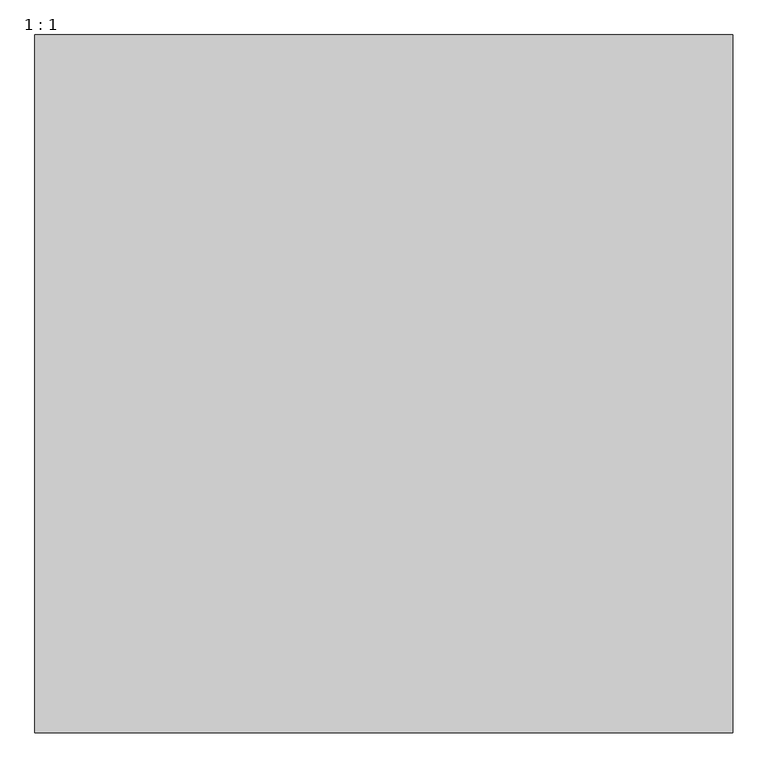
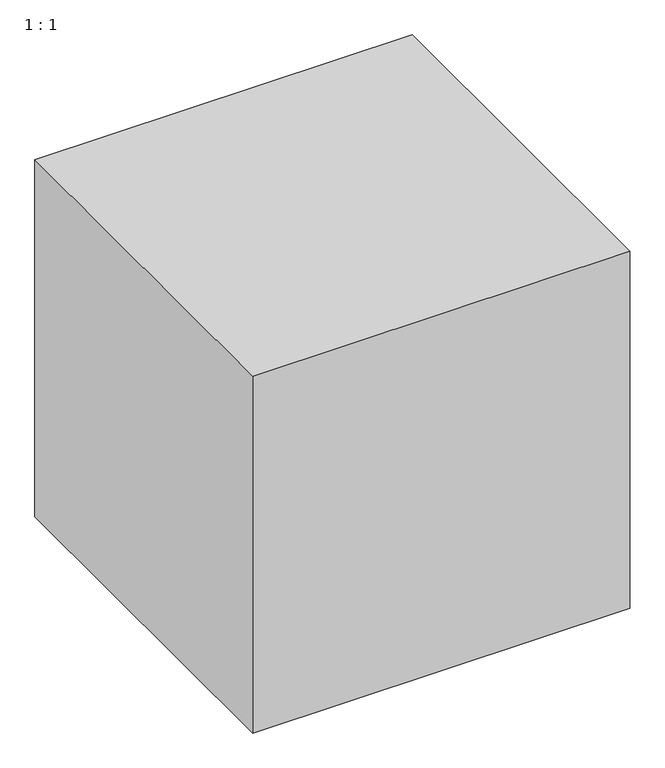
"""IFC4 building model written with IfcOpenShell, lengths in millimetres: proxy geometry, 1 : 1."""

import ifcopenshell
import ifcopenshell.guid

model = None  # the IFC model being written
_history = None  # IfcOwnerHistory: only IFC2X3 demands one
_inside = {}  # id of a spatial element -> (the spatial element, [elements in it])
_under = {}  # id of a project, library or spatial element -> (it, [spatial elements below it])
_declared = {}  # id of a project -> (the project, [libraries it declares])
_typed = {}  # id of a type object -> (the type object, [elements of that type])
_made_of = {}  # id of a material, layer set ... -> (it, [elements and type objects made of it])


def new_model(schema):
    """Start an empty IFC model of exactly this schema.

    Asked for "IFC4X3", IfcOpenShell would pick the latest addendum, in which some entities
    have other attributes; the version numbers below select the first issue.
    IFC2X3 requires an IfcOwnerHistory on every rooted entity: one is made here for all.
    """
    global model, _history
    if schema == "IFC4X3":
        model = ifcopenshell.file(schema_version=(4, 3, 0, 0))
    else:
        model = ifcopenshell.file(schema=schema)
    _inside.clear()
    _under.clear()
    _declared.clear()
    _typed.clear()
    _made_of.clear()
    _history = None
    if model.schema == "IFC2X3":
        org = make("IfcOrganization", Name="unknown")
        user = make(
            "IfcPersonAndOrganization",
            ThePerson=make("IfcPerson", FamilyName="unknown"),
            TheOrganization=org,
        )
        app = make(
            "IfcApplication",
            ApplicationDeveloper=org,
            Version="unknown",
            ApplicationFullName="unknown",
            ApplicationIdentifier="unknown",
        )
        _history = make(
            "IfcOwnerHistory",
            OwningUser=user,
            OwningApplication=app,
            ChangeAction="ADDED",
            CreationDate=0,
        )
    return model


def make(cls, **values):
    """One entity of the class cls with the attributes given. An attribute that is None is left unset."""
    return model.create_entity(
        cls, **{name: value for name, value in values.items() if value is not None}
    )


def rooted(cls, **values):
    """An entity with a GlobalId (a new one), such as an element, a storey or a relation."""
    return make(cls, GlobalId=ifcopenshell.guid.new(), OwnerHistory=_history, **values)


def si_unit(unit_type, name, prefix=None):
    """IfcSIUnit, for example si_unit("LENGTHUNIT", "METRE", prefix="MILLI")."""
    return make("IfcSIUnit", UnitType=unit_type, Prefix=prefix, Name=name)


def assignment(units):
    """IfcUnitAssignment: the units of a project."""
    return None if units is None else make("IfcUnitAssignment", Units=units)


def point(xyz):
    """IfcCartesianPoint."""
    return None if xyz is None else make("IfcCartesianPoint", Coordinates=xyz)


def direction(xyz):
    """IfcDirection."""
    return None if xyz is None else make("IfcDirection", DirectionRatios=xyz)


def frame(location, z_axis=None, x_axis=None):
    """IfcAxis2Placement3D, a coordinate frame: its origin and axes. An axis left out is left unset."""
    return make(
        "IfcAxis2Placement3D",
        Location=point(location),
        Axis=direction(z_axis),
        RefDirection=direction(x_axis),
    )


def origin():
    """The frame at (0, 0, 0) with its axes left unset."""
    return frame((0.0, 0.0, 0.0))


def origin_with_axes():
    """The frame at (0, 0, 0) with the z axis (0, 0, 1) and the x axis (1, 0, 0) written out."""
    return frame((0.0, 0.0, 0.0), z_axis=(0.0, 0.0, 1.0), x_axis=(1.0, 0.0, 0.0))


def place(relative_to, where):
    """IfcLocalPlacement: puts the frame where relative to a parent placement (None: the world)."""
    return make(
        "IfcLocalPlacement", PlacementRelTo=relative_to, RelativePlacement=where
    )


def context(
    kind, dimensions, precision=None, world=None, true_north=None, identifier=None
):
    """IfcGeometricRepresentationContext, for example the 3D "Model" context."""
    return make(
        "IfcGeometricRepresentationContext",
        ContextIdentifier=identifier,
        ContextType=kind,
        CoordinateSpaceDimension=dimensions,
        Precision=precision,
        WorldCoordinateSystem=world,
        TrueNorth=true_north,
    )


def project(units=None, contexts=None):
    """IfcProject with its units and contexts."""
    return rooted(
        "IfcProject",
        Name="project",
        RepresentationContexts=contexts,
        UnitsInContext=assignment(units),
    )


def spatial(cls, under=None, at=None, **own):
    """A site, building, storey or space (cls), placed at a placement, below another one or the project."""
    s = rooted(cls, ObjectPlacement=at, **own)
    if under is not None:
        _under.setdefault(under.id(), (under, []))[1].append(s)
    return s


def polyline(points):
    """IfcPolyline through the points."""
    return make("IfcPolyline", Points=[point(p) for p in points])


def outline(outer, holes=None, kind="AREA"):
    """IfcArbitraryClosedProfileDef: a profile drawn as a closed curve; with holes, ...WithVoids."""
    if holes is None:
        return make("IfcArbitraryClosedProfileDef", ProfileType=kind, OuterCurve=outer)
    return make(
        "IfcArbitraryProfileDefWithVoids",
        ProfileType=kind,
        OuterCurve=outer,
        InnerCurves=holes,
    )


def extrude(swept, where, along, depth):
    """IfcExtrudedAreaSolid: the profile swept, set in the frame where, extruded along a direction by depth."""
    return make(
        "IfcExtrudedAreaSolid",
        SweptArea=swept,
        Position=where,
        ExtrudedDirection=direction(along),
        Depth=depth,
    )


def shape(context_of_items, identifier, shape_type, items):
    """IfcShapeRepresentation: the items that make up one representation, for example the "Body"."""
    return make(
        "IfcShapeRepresentation",
        ContextOfItems=context_of_items,
        RepresentationIdentifier=identifier,
        RepresentationType=shape_type,
        Items=items,
    )


def source(mapping_origin, context_of_items, identifier, shape_type, items):
    """IfcRepresentationMap: a shape defined once, which mapped items show again and again."""
    return make(
        "IfcRepresentationMap",
        MappingOrigin=mapping_origin,
        MappedRepresentation=shape(context_of_items, identifier, shape_type, items),
    )


def transform(
    local_origin,
    x_axis=None,
    y_axis=None,
    z_axis=None,
    scale=None,
    scale2=None,
    scale3=None,
    uniform=True,
):
    """IfcCartesianTransformationOperator3D, or its non-uniform kind. x_axis, y_axis, z_axis: its Axis1, 2, 3."""
    if uniform:
        return make(
            "IfcCartesianTransformationOperator3D",
            Axis1=direction(x_axis),
            Axis2=direction(y_axis),
            LocalOrigin=point(local_origin),
            Scale=scale,
            Axis3=direction(z_axis),
        )
    return make(
        "IfcCartesianTransformationOperator3DnonUniform",
        Axis1=direction(x_axis),
        Axis2=direction(y_axis),
        LocalOrigin=point(local_origin),
        Scale=scale,
        Axis3=direction(z_axis),
        Scale2=scale2,
        Scale3=scale3,
    )


def mapped(mapping_source, mapping_target):
    """IfcMappedItem: shows the shape of a source again, moved by a transform."""
    return make(
        "IfcMappedItem", MappingSource=mapping_source, MappingTarget=mapping_target
    )


def made_of(thing, what):
    """Note that an element or type object is made of a material, layer set ...; save() writes the relation."""
    if what is not None:
        _made_of.setdefault(what.id(), (what, []))[1].append(thing)
    return thing


def element(
    cls,
    number,
    at=None,
    inside=None,
    cuts=None,
    type_object=None,
    material=None,
    context=None,
    identifier="Body",
    shape_type=None,
    held_by="IfcProductDefinitionShape",
    body=None,
    shapes=None,
    **own,
):
    """One element of the class cls, such as IfcWall. Its Tag is "e" and its number.

    at: its placement. inside: the storey or other place that contains it. cuts: it is an
    opening in that element (IfcRelVoidsElement). A single representation is given by context,
    identifier, shape_type and body (its items); several are given by shapes. held_by: the class
    of the entity that holds the representations. save() writes the other relations.
    """
    e = rooted(cls, Tag="e%d" % number, ObjectPlacement=at, **own)
    if body is not None:
        shapes = [shape(context, identifier, shape_type, body)]
    if shapes is not None:
        e.Representation = make(held_by, Representations=shapes)
    if inside is not None:
        _inside.setdefault(inside.id(), (inside, []))[1].append(e)
    if cuts is not None:
        rooted(
            "IfcRelVoidsElement", RelatingBuildingElement=cuts, RelatedOpeningElement=e
        )
    if type_object is not None:
        _typed.setdefault(type_object.id(), (type_object, []))[1].append(e)
    return made_of(e, material)


def aggregate(whole, parts):
    """IfcRelAggregates: a whole, such as a stair, and the parts it consists of."""
    return rooted("IfcRelAggregates", RelatingObject=whole, RelatedObjects=parts)


def save(model, path):
    """Write the relations noted so far, then the file.

    IfcRelAggregates (storeys below a building ...), IfcRelContainedInSpatialStructure (elements
    in a storey), IfcRelDefinesByType, IfcRelAssociatesMaterial and IfcRelDeclares: one each for
    every whole, place, type object, material and project.
    """
    for whole, parts in _under.values():
        aggregate(whole, parts)
    for where, things in _inside.values():
        rooted(
            "IfcRelContainedInSpatialStructure",
            RelatedElements=things,
            RelatingStructure=where,
        )
    for kind, things in _typed.values():
        rooted("IfcRelDefinesByType", RelatedObjects=things, RelatingType=kind)
    for what, things in _made_of.values():
        rooted("IfcRelAssociatesMaterial", RelatedObjects=things, RelatingMaterial=what)
    for by, libraries in _declared.values():
        rooted("IfcRelDeclares", RelatingContext=by, RelatedDefinitions=libraries)
    model.write(path)


def proxy_1_1_93c13270(model_context):
    return source(origin(), model_context, "Body", "SweptSolid", [
        extrude(outline(polyline([(-13107.9756708, 10835.2294472), (-13107.9756708, 9835.2294472), (-14107.9756708, 9835.2294472), (-14107.9756708, 10835.2294472), (-13107.9756708, 10835.2294472)])), origin_with_axes(), (0.0, 0.0, 1.0), 1000.0),
    ])


if __name__ == "__main__":
    model = new_model("IFC4")
    model_context = context("Model", 3, world=origin())
    ifc_project = project(units=[si_unit("LENGTHUNIT", "METRE", prefix="MILLI")], contexts=[model_context])
    site = spatial("IfcSite", under=ifc_project)
    building = spatial("IfcBuilding", under=site)
    placement = place(None, origin())
    proxy_1_1_shape = proxy_1_1_93c13270(model_context)
    element("IfcBuildingElementProxy", 1, Name="1 : 1", ObjectType="1 : 1", at=placement, inside=building, context=model_context, shape_type="MappedRepresentation", body=[
        mapped(proxy_1_1_shape, transform((0.0, 0.0, 0.0), x_axis=(1.0, 0.0, 0.0), y_axis=(0.0, 1.0, 0.0), z_axis=(0.0, 0.0, 1.0))),
    ])
    save(model, "model.ifc")
